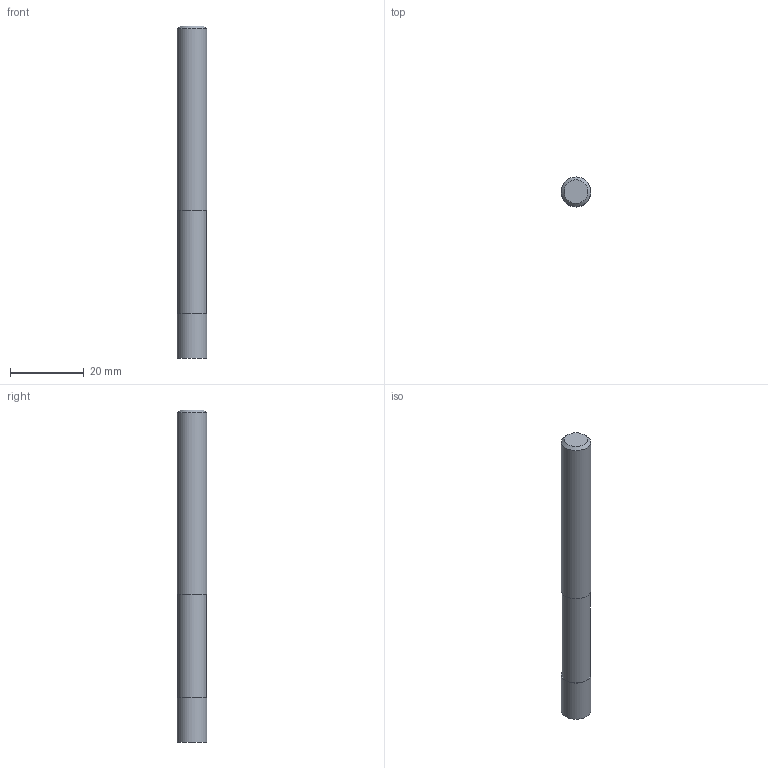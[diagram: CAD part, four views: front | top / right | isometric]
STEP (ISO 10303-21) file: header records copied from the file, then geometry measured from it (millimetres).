
FILE_DESCRIPTION((''),'2;1');
FILE_NAME('C:\Users\nsx150\AppData\Local\Temp\Mastercam 2021\EUJSUNXURU\TEMP.step','2021-04-22T10:29:24',(''),(''),'STEP Write','Mastercam 2021 ... CNC Software, Inc.','');
FILE_SCHEMA(('AUTOMOTIVE_DESIGN'));
Length unit declared in the file: millimetre
Products named in the file (1): None
Bounding box: 8 x 8 x 90 mm (x, y, z)
Volume: 4446.9 mm3; surface area: 2432.8 mm2
Topology: 2 solids, 2 shells, 9 faces, 11 edges, 7 vertices
Faces by surface type: plane 5, cylinder 3, cone 1
Full cylindrical faces by diameter (mm): 7.8 x1, 8 x2
Entity records: 211 total; most frequent: DIRECTION 36, CARTESIAN_POINT 25, AXIS2_PLACEMENT_3D 18, ORIENTED_EDGE 14, EDGE_LOOP 14, STYLED_ITEM 12, ADVANCED_FACE 9, FACE_BOUND 8
